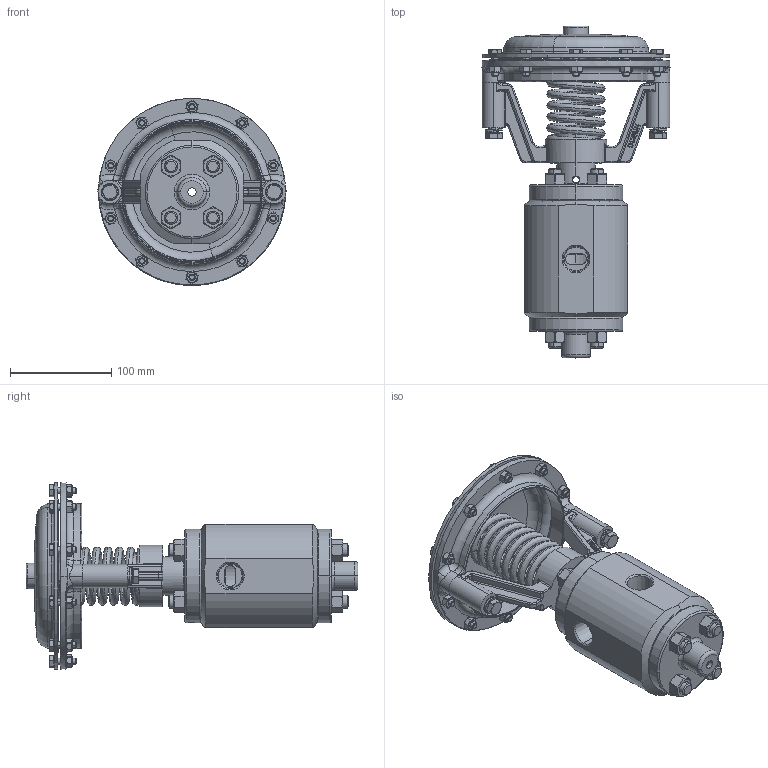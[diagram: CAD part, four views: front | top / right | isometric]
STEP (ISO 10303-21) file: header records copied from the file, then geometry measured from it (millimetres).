
FILE_DESCRIPTION (( 'STEP AP203' ), '1' );
FILE_NAME ('.50-.75 HYD NPT 2W-3W HARD-STEP.STEP', '2018-12-12T19:23:31', ( '' ), ( '' ), 'SwSTEP 2.0', 'SolidWorks 2012', '' );
FILE_SCHEMA (( 'CONFIG_CONTROL_DESIGN' ));
Length unit declared in the file: inch
Products named in the file (17): .50-.75 HYD NPT 2W-3W HARD-STEP; H175-21; H096-55; H060-23; D153-024D; H096-10; H060-03; D043-065D; D293-081DR_COMPRESSED; C293-023DG; D771; C293-023DM; C893-015D-SS; C213-050D; D283-200D; C093-044D; D283-025D-SS
Assembly tree (50 placements, depth 3):
  .50-.75 HYD NPT 2W-3W HARD-STEP
    D283-025D-SS
    C093-044D
    D283-200D
    C213-050D
    C893-015D-SS
    C293-023DG
      C293-023DM
      D771
    D293-081DR_COMPRESSED
    D043-065D
    H060-03  x10
    H096-10  x10
    D153-024D  x8
    H060-23  x8
    H096-55  x2
    H175-21  x2
Bounding box: 185.42 x 327.31 x 184.53 mm (x, y, z)
Volume: 1547807.8 mm3; surface area: 359924.9 mm2
Topology: 49 solids, 49 shells, 3105 faces, 6947 edges, 3935 vertices
Faces by surface type: plane 761, cylinder 696, cone 519, bspline 488, sphere 370, torus 271
Entity records: 68567 total; most frequent: CARTESIAN_POINT 29734, ORIENTED_EDGE 7730, DIRECTION 7256, EDGE_CURVE 3865, AXIS2_PLACEMENT_3D 2912, VERTEX_POINT 2375, EDGE_LOOP 1768, FACE_OUTER_BOUND 1594
